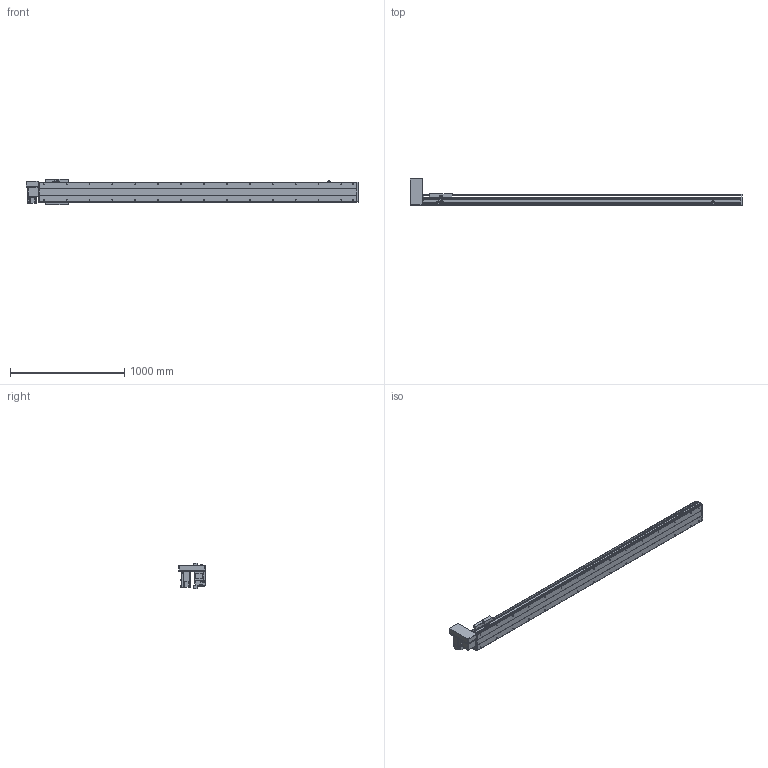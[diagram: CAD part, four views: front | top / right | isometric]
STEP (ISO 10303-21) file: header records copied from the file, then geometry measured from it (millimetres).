
FILE_DESCRIPTION(/* description */ ('STEP AP214'),/* implementation_level */ '2;1');
FILE_NAME(/* name */ 'PBS200-P40-S2400-RU-T75-C1-N(0)',/* time_stamp */ '2022-06-11T09:37:17+02:00',/* author */ ('License CC BY-ND 4.0'),/* organization */ ('CADENAS'),/* preprocessor_version */ 'ST-DEVELOPER v18.102',/* originating_system */ 'PARTsolutions',/* authorisation */ ' ');
FILE_SCHEMA (('AUTOMOTIVE_DESIGN {1 0 10303 214 3 1 1}'));
Length unit declared in the file: millimetre
Products named in the file (7): PBS200-P40-S2400-RU-T75-C1-N(0); PBS200_sensor; PBS200_plant; PBS200_sliser; T75-p1; PBS200T-RU_motors; PBS200-S2400()_body
Assembly tree (8 placements, depth 2):
  PBS200-P40-S2400-RU-T75-C1-N(0)
    PBS200_sensor  x3
    PBS200_plant
    PBS200_sliser
    T75-p1
    PBS200T-RU_motors
    PBS200-S2400()_body
Bounding box: 2900 x 231 x 221 mm (x, y, z)
Volume: 19979343 mm3; surface area: 3197974.6 mm2
Topology: 8 solids, 8 shells, 962 faces, 2444 edges, 1590 vertices
Faces by surface type: plane 588, cylinder 312, cone 62
Full cylindrical faces by diameter (mm): 2.459 x6, 3.242 x4, 4.5 x6, 4.917 x4, 5 x6, 6 x7, 6.6 x8, 6.647 x34, 8 x6, 10 x4, 12 x8, 38 x2, 40 x1, 70 x1
Entity records: 25421 total; most frequent: DIRECTION 4495, CARTESIAN_POINT 4318, ORIENTED_EDGE 4066, EDGE_CURVE 2033, AXIS2_PLACEMENT_3D 1591, VERTEX_POINT 1414, LINE 1313, VECTOR 1313
